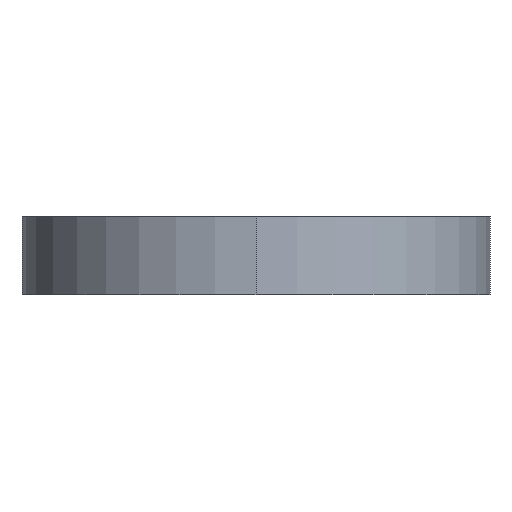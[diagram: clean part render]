
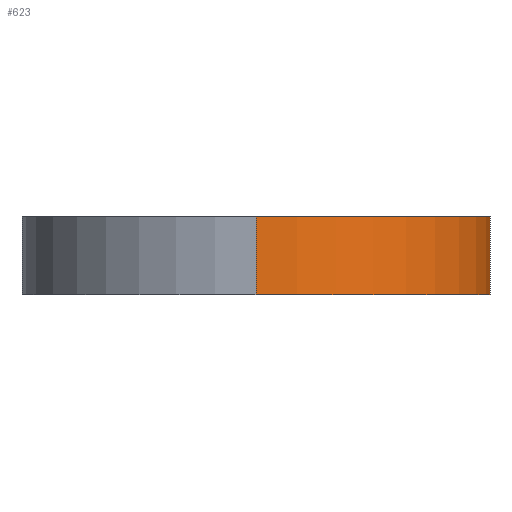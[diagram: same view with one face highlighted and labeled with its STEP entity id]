
A CAD part, left-side view. The second image highlights one B-rep face of the part: STEP entity #623.
In plain terms, the highlighted cylindrical face has radius 45 mm (diameter 90 mm), a partial arc.
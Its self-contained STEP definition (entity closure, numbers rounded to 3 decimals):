
#582 = VERTEX_POINT ( 'NONE', #1743 ) ;
#585 = EDGE_LOOP ( 'NONE', ( #617, #625, #586, #856 ) ) ;
#586 = ORIENTED_EDGE ( 'NONE', *, *, #649, .T. ) ;
#600 = EDGE_CURVE ( 'NONE', #582, #858, #1789, .T. ) ;
#617 = ORIENTED_EDGE ( 'NONE', *, *, #600, .F. ) ;
#621 = VERTEX_POINT ( 'NONE', #1818 ) ;
#622 = VERTEX_POINT ( 'NONE', #1812 ) ;
#623 = ADVANCED_FACE ( 'NONE', ( #1800 ), #1816, .T. ) ;
#625 = ORIENTED_EDGE ( 'NONE', *, *, #859, .T. ) ;
#643 = EDGE_CURVE ( 'NONE', #858, #621, #1853, .T. ) ;
#649 = EDGE_CURVE ( 'NONE', #622, #621, #1900, .T. ) ;
#856 = ORIENTED_EDGE ( 'NONE', *, *, #643, .F. ) ;
#858 = VERTEX_POINT ( 'NONE', #2265 ) ;
#859 = EDGE_CURVE ( 'NONE', #582, #622, #2259, .T. ) ;
#1743 = CARTESIAN_POINT ( 'NONE',  ( -45., 0., 7.5 ) ) ;
#1757 = CARTESIAN_POINT ( 'NONE',  ( 0., 0., 7.5 ) ) ;
#1776 = DIRECTION ( 'NONE',  ( 1., 0., 0. ) ) ;
#1777 = DIRECTION ( 'NONE',  ( 0., 0., 1. ) ) ;
#1784 = AXIS2_PLACEMENT_3D ( 'NONE', #1757, #1777, #1776 ) ;
#1789 = CIRCLE ( 'NONE', #1784, 45. ) ;
#1794 = DIRECTION ( 'NONE',  ( -1., 0., 0. ) ) ;
#1795 = DIRECTION ( 'NONE',  ( 0., 0., -1. ) ) ;
#1799 = AXIS2_PLACEMENT_3D ( 'NONE', #1801, #1795, #1794 ) ;
#1800 = FACE_OUTER_BOUND ( 'NONE', #585, .T. ) ;
#1801 = CARTESIAN_POINT ( 'NONE',  ( 0., 0., 7.5 ) ) ;
#1812 = CARTESIAN_POINT ( 'NONE',  ( -45., 0., -7.5 ) ) ;
#1816 = CYLINDRICAL_SURFACE ( 'NONE', #1799, 45. ) ;
#1818 = CARTESIAN_POINT ( 'NONE',  ( 0., -45., -7.5 ) ) ;
#1850 = DIRECTION ( 'NONE',  ( 0., 0., -1. ) ) ;
#1851 = VECTOR ( 'NONE', #1850, 1000. ) ;
#1852 = CARTESIAN_POINT ( 'NONE',  ( 0., -45., 7.5 ) ) ;
#1853 = LINE ( 'NONE', #1852, #1851 ) ;
#1890 = DIRECTION ( 'NONE',  ( 1., 0., 0. ) ) ;
#1891 = DIRECTION ( 'NONE',  ( 0., 0., 1. ) ) ;
#1892 = CARTESIAN_POINT ( 'NONE',  ( 0., 0., -7.5 ) ) ;
#1893 = AXIS2_PLACEMENT_3D ( 'NONE', #1892, #1891, #1890 ) ;
#1900 = CIRCLE ( 'NONE', #1893, 45. ) ;
#2256 = DIRECTION ( 'NONE',  ( 0., 0., -1. ) ) ;
#2257 = VECTOR ( 'NONE', #2256, 1000. ) ;
#2258 = CARTESIAN_POINT ( 'NONE',  ( -45., 0., 7.5 ) ) ;
#2259 = LINE ( 'NONE', #2258, #2257 ) ;
#2265 = CARTESIAN_POINT ( 'NONE',  ( 0., -45., 7.5 ) ) ;
